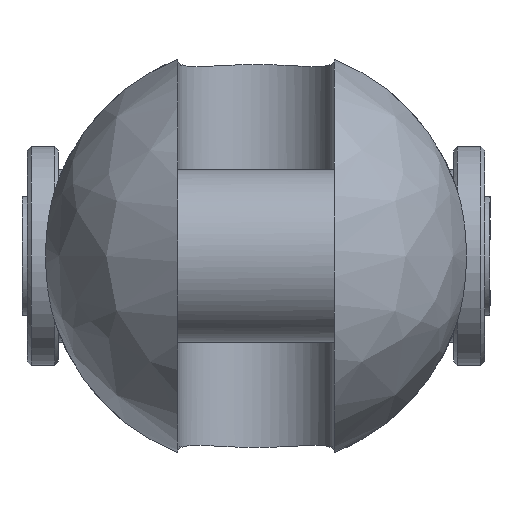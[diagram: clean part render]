
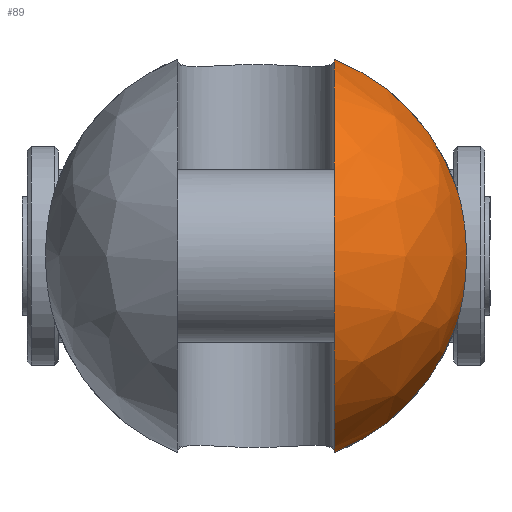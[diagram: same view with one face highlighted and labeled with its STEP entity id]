
A CAD part, left-side view. The second image highlights one B-rep face of the part: STEP entity #89.
In plain terms, the highlighted free-form (B-spline) face has degree [2, 2] with [9, 5] control points.
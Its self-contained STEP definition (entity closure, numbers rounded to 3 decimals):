
#89=ADVANCED_FACE('',(#164),#1306,.T.);
#164=FACE_OUTER_BOUND('',#249,.T.);
#249=EDGE_LOOP('',(#583,#584,#585,#586));
#583=ORIENTED_EDGE('',*,*,#811,.T.);
#584=ORIENTED_EDGE('',*,*,#833,.F.);
#585=ORIENTED_EDGE('',*,*,#843,.T.);
#586=ORIENTED_EDGE('',*,*,#827,.F.);
#811=EDGE_CURVE('',#1192,#1191,#1045,.T.);
#827=EDGE_CURVE('',#1192,#1204,#1055,.T.);
#833=EDGE_CURVE('',#1211,#1191,#1056,.T.);
#843=EDGE_CURVE('',#1211,#1204,#959,.T.);
#959=B_SPLINE_CURVE_WITH_KNOTS('',3,(#3064,#3065,#3066,#3067,#3068,#3069,
#3070,#3071,#3072,#3073,#3074,#3075,#3076,#3077),.UNSPECIFIED.,.F.,.F.,
(4,2,2,2,2,2,4),(0.,2.274,6.04,9.806,
13.572,17.338,19.612),.UNSPECIFIED.);
#1045=(
BOUNDED_CURVE()
B_SPLINE_CURVE(2,(#2912,#2913,#2914,#2915,#2916),.UNSPECIFIED.,.F.,.F.)
B_SPLINE_CURVE_WITH_KNOTS((3,2,3),(-78.791,-39.395,
0.),.UNSPECIFIED.)
CURVE()
GEOMETRIC_REPRESENTATION_ITEM()
RATIONAL_B_SPLINE_CURVE((1.,0.707,1.,0.707,1.))
REPRESENTATION_ITEM('')
);
#1055=(
BOUNDED_CURVE()
B_SPLINE_CURVE(2,(#2990,#2991,#2992),.UNSPECIFIED.,.F.,.F.)
B_SPLINE_CURVE_WITH_KNOTS((3,3),(0.,22.992),.UNSPECIFIED.)
CURVE()
GEOMETRIC_REPRESENTATION_ITEM()
RATIONAL_B_SPLINE_CURVE((1.,0.911,1.))
REPRESENTATION_ITEM('')
);
#1056=(
BOUNDED_CURVE()
B_SPLINE_CURVE(2,(#3019,#3020,#3021),.UNSPECIFIED.,.F.,.F.)
B_SPLINE_CURVE_WITH_KNOTS((3,3),(0.,22.992),.UNSPECIFIED.)
CURVE()
GEOMETRIC_REPRESENTATION_ITEM()
RATIONAL_B_SPLINE_CURVE((1.,0.911,1.))
REPRESENTATION_ITEM('')
);
#1191=VERTEX_POINT('',#2837);
#1192=VERTEX_POINT('',#2838);
#1204=VERTEX_POINT('',#2850);
#1211=VERTEX_POINT('',#2857);
#1306=(
BOUNDED_SURFACE()
B_SPLINE_SURFACE(2,2,((#2445,#2446,#2447,#2448,#2449),(#2450,#2451,#2452,
#2453,#2454),(#2455,#2456,#2457,#2458,#2459),(#2460,#2461,#2462,#2463,#2464),
(#2465,#2466,#2467,#2468,#2469),(#2470,#2471,#2472,#2473,#2474),(#2475,
#2476,#2477,#2478,#2479),(#2480,#2481,#2482,#2483,#2484),(#2485,#2486,#2487,
#2488,#2489)),.UNSPECIFIED.,.T.,.F.,.F.)
B_SPLINE_SURFACE_WITH_KNOTS((3,2,2,2,3),(3,2,3),(0.,42.412,84.823,
127.235,169.646),(0.,42.412,84.823),
 .UNSPECIFIED.)
GEOMETRIC_REPRESENTATION_ITEM()
RATIONAL_B_SPLINE_SURFACE(((1.,0.707,1.,0.707,1.),
(0.707,0.5,0.707,0.5,0.707),(1.,0.707,
1.,0.707,1.),(0.707,0.5,0.707,0.5,0.707),
(1.,0.707,1.,0.707,1.),(0.707,0.5,0.707,
0.5,0.707),(1.,0.707,1.,0.707,1.),(0.707,
0.5,0.707,0.5,0.707),(1.,0.707,1.,0.707,
1.)))
REPRESENTATION_ITEM('')
SURFACE()
);
#2445=CARTESIAN_POINT('',(-39.,0.,0.));
#2446=CARTESIAN_POINT('',(-39.,27.,0.));
#2447=CARTESIAN_POINT('',(-12.,27.,0.));
#2448=CARTESIAN_POINT('',(15.,27.,0.));
#2449=CARTESIAN_POINT('',(15.,0.,0.));
#2450=CARTESIAN_POINT('',(-39.,0.,0.));
#2451=CARTESIAN_POINT('',(-39.,27.,27.));
#2452=CARTESIAN_POINT('',(-12.,27.,27.));
#2453=CARTESIAN_POINT('',(15.,27.,27.));
#2454=CARTESIAN_POINT('',(15.,0.,0.));
#2455=CARTESIAN_POINT('',(-39.,0.,0.));
#2456=CARTESIAN_POINT('',(-39.,0.,27.));
#2457=CARTESIAN_POINT('',(-12.,0.,27.));
#2458=CARTESIAN_POINT('',(15.,0.,27.));
#2459=CARTESIAN_POINT('',(15.,0.,0.));
#2460=CARTESIAN_POINT('',(-39.,0.,0.));
#2461=CARTESIAN_POINT('',(-39.,-27.,27.));
#2462=CARTESIAN_POINT('',(-12.,-27.,27.));
#2463=CARTESIAN_POINT('',(15.,-27.,27.));
#2464=CARTESIAN_POINT('',(15.,0.,0.));
#2465=CARTESIAN_POINT('',(-39.,0.,0.));
#2466=CARTESIAN_POINT('',(-39.,-27.,0.));
#2467=CARTESIAN_POINT('',(-12.,-27.,0.));
#2468=CARTESIAN_POINT('',(15.,-27.,0.));
#2469=CARTESIAN_POINT('',(15.,0.,0.));
#2470=CARTESIAN_POINT('',(-39.,0.,0.));
#2471=CARTESIAN_POINT('',(-39.,-27.,-27.));
#2472=CARTESIAN_POINT('',(-12.,-27.,-27.));
#2473=CARTESIAN_POINT('',(15.,-27.,-27.));
#2474=CARTESIAN_POINT('',(15.,0.,0.));
#2475=CARTESIAN_POINT('',(-39.,0.,0.));
#2476=CARTESIAN_POINT('',(-39.,0.,-27.));
#2477=CARTESIAN_POINT('',(-12.,0.,-27.));
#2478=CARTESIAN_POINT('',(15.,0.,-27.));
#2479=CARTESIAN_POINT('',(15.,0.,0.));
#2480=CARTESIAN_POINT('',(-39.,0.,0.));
#2481=CARTESIAN_POINT('',(-39.,27.,-27.));
#2482=CARTESIAN_POINT('',(-12.,27.,-27.));
#2483=CARTESIAN_POINT('',(15.,27.,-27.));
#2484=CARTESIAN_POINT('',(15.,0.,0.));
#2485=CARTESIAN_POINT('',(-39.,0.,0.));
#2486=CARTESIAN_POINT('',(-39.,27.,0.));
#2487=CARTESIAN_POINT('',(-12.,27.,0.));
#2488=CARTESIAN_POINT('',(15.,27.,0.));
#2489=CARTESIAN_POINT('',(15.,0.,0.));
#2837=CARTESIAN_POINT('',(-12.,-10.,-25.08));
#2838=CARTESIAN_POINT('',(-12.,-10.,25.08));
#2850=CARTESIAN_POINT('',(-12.,-25.456,9.));
#2857=CARTESIAN_POINT('',(-12.,-25.456,-9.));
#2912=CARTESIAN_POINT('',(-12.,-10.,25.08));
#2913=CARTESIAN_POINT('',(-37.08,-10.,25.08));
#2914=CARTESIAN_POINT('',(-37.08,-10.,0.));
#2915=CARTESIAN_POINT('',(-37.08,-10.,-25.08));
#2916=CARTESIAN_POINT('',(-12.,-10.,-25.08));
#2990=CARTESIAN_POINT('',(-12.,-10.,25.08));
#2991=CARTESIAN_POINT('',(-12.,-21.374,20.545));
#2992=CARTESIAN_POINT('',(-12.,-25.456,9.));
#3019=CARTESIAN_POINT('',(-12.,-25.456,-9.));
#3020=CARTESIAN_POINT('',(-12.,-21.374,-20.545));
#3021=CARTESIAN_POINT('',(-12.,-10.,-25.08));
#3064=CARTESIAN_POINT('',(-12.,-25.456,-9.));
#3065=CARTESIAN_POINT('',(-12.443,-25.665,-8.409));
#3066=CARTESIAN_POINT('',(-12.837,-25.848,-7.792));
#3067=CARTESIAN_POINT('',(-13.729,-26.26,-6.153));
#3068=CARTESIAN_POINT('',(-14.213,-26.479,-4.963));
#3069=CARTESIAN_POINT('',(-14.848,-26.765,-2.482));
#3070=CARTESIAN_POINT('',(-15.,-26.833,-1.191));
#3071=CARTESIAN_POINT('',(-15.,-26.833,1.191));
#3072=CARTESIAN_POINT('',(-14.848,-26.765,2.482));
#3073=CARTESIAN_POINT('',(-14.213,-26.479,4.963));
#3074=CARTESIAN_POINT('',(-13.729,-26.26,6.153));
#3075=CARTESIAN_POINT('',(-12.837,-25.848,7.792));
#3076=CARTESIAN_POINT('',(-12.443,-25.665,8.409));
#3077=CARTESIAN_POINT('',(-12.,-25.456,9.));
